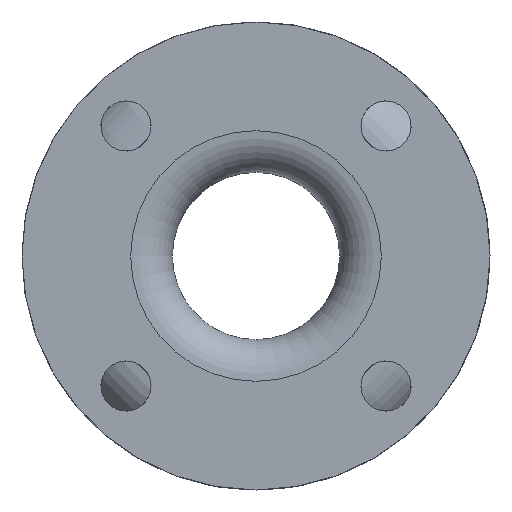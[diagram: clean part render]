
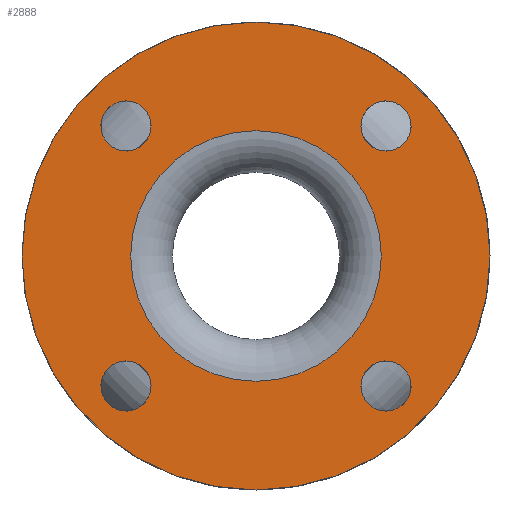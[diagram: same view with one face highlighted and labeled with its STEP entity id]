
A CAD part, left-side view. The second image highlights one B-rep face of the part: STEP entity #2888.
In plain terms, the highlighted planar face has unit normal (-1, 0, 0).
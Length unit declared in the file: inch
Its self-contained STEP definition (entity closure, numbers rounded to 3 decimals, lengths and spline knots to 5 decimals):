
#71=FACE_BOUND('',#539,.T.);
#72=FACE_BOUND('',#540,.T.);
#73=FACE_BOUND('',#541,.T.);
#74=FACE_BOUND('',#542,.T.);
#75=FACE_BOUND('',#543,.T.);
#335=FACE_OUTER_BOUND('',#538,.T.);
#538=EDGE_LOOP('',(#2496));
#539=EDGE_LOOP('',(#2497));
#540=EDGE_LOOP('',(#2498));
#541=EDGE_LOOP('',(#2499));
#542=EDGE_LOOP('',(#2500));
#543=EDGE_LOOP('',(#2501));
#1094=CIRCLE('',#3240,0.375);
#1095=CIRCLE('',#3242,0.375);
#1096=CIRCLE('',#3244,0.375);
#1097=CIRCLE('',#3246,0.375);
#1105=CIRCLE('',#3261,1.875);
#1106=CIRCLE('',#3263,3.5);
#1362=VERTEX_POINT('',#4955);
#1363=VERTEX_POINT('',#4958);
#1364=VERTEX_POINT('',#4961);
#1365=VERTEX_POINT('',#4964);
#1373=VERTEX_POINT('',#4987);
#1374=VERTEX_POINT('',#4990);
#1746=EDGE_CURVE('',#1362,#1362,#1094,.T.);
#1747=EDGE_CURVE('',#1363,#1363,#1095,.T.);
#1748=EDGE_CURVE('',#1364,#1364,#1096,.T.);
#1749=EDGE_CURVE('',#1365,#1365,#1097,.T.);
#1757=EDGE_CURVE('',#1373,#1373,#1105,.T.);
#1758=EDGE_CURVE('',#1374,#1374,#1106,.T.);
#2496=ORIENTED_EDGE('',*,*,#1758,.F.);
#2497=ORIENTED_EDGE('',*,*,#1757,.T.);
#2498=ORIENTED_EDGE('',*,*,#1746,.T.);
#2499=ORIENTED_EDGE('',*,*,#1747,.T.);
#2500=ORIENTED_EDGE('',*,*,#1748,.T.);
#2501=ORIENTED_EDGE('',*,*,#1749,.T.);
#2582=PLANE('',#3262);
#2888=ADVANCED_FACE('',(#335,#71,#72,#73,#74,#75),#2582,.T.);
#3240=AXIS2_PLACEMENT_3D('',#4956,#4121,#4122);
#3242=AXIS2_PLACEMENT_3D('',#4959,#4125,#4126);
#3244=AXIS2_PLACEMENT_3D('',#4962,#4129,#4130);
#3246=AXIS2_PLACEMENT_3D('',#4965,#4133,#4134);
#3261=AXIS2_PLACEMENT_3D('',#4988,#4163,#4164);
#3262=AXIS2_PLACEMENT_3D('',#4989,#4165,#4166);
#3263=AXIS2_PLACEMENT_3D('',#4991,#4167,#4168);
#4121=DIRECTION('center_axis',(1.,0.,0.));
#4122=DIRECTION('ref_axis',(0.,-1.,0.));
#4125=DIRECTION('center_axis',(1.,0.,0.));
#4126=DIRECTION('ref_axis',(0.,0.,
1.));
#4129=DIRECTION('center_axis',(1.,0.,0.));
#4130=DIRECTION('ref_axis',(0.,1.,0.));
#4133=DIRECTION('center_axis',(1.,0.,0.));
#4134=DIRECTION('ref_axis',(0.,0.,-1.));
#4163=DIRECTION('center_axis',(1.,0.,0.));
#4164=DIRECTION('ref_axis',(0.,0.,-1.));
#4165=DIRECTION('center_axis',(-1.,0.,0.));
#4166=DIRECTION('ref_axis',(0.,0.,1.));
#4167=DIRECTION('center_axis',(1.,0.,0.));
#4168=DIRECTION('ref_axis',(0.,0.,-1.));
#4955=CARTESIAN_POINT('',(-3.,-1.56954,-1.94454));
#4956=CARTESIAN_POINT('Origin',(-3.,-1.94454,-1.94454));
#4958=CARTESIAN_POINT('',(-3.,-1.94454,1.56954));
#4959=CARTESIAN_POINT('Origin',(-3.,-1.94454,1.94454));
#4961=CARTESIAN_POINT('',(-3.,1.56954,1.94454));
#4962=CARTESIAN_POINT('Origin',(-3.,1.94454,1.94454));
#4964=CARTESIAN_POINT('',(-3.,1.94454,-1.56954));
#4965=CARTESIAN_POINT('Origin',(-3.,1.94454,-1.94454));
#4987=CARTESIAN_POINT('',(-3.,1.875,0.));
#4988=CARTESIAN_POINT('Origin',(-3.,0.,0.));
#4989=CARTESIAN_POINT('Origin',(-3.,3.5,0.));
#4990=CARTESIAN_POINT('',(-3.,3.5,0.));
#4991=CARTESIAN_POINT('Origin',(-3.,0.,0.));
